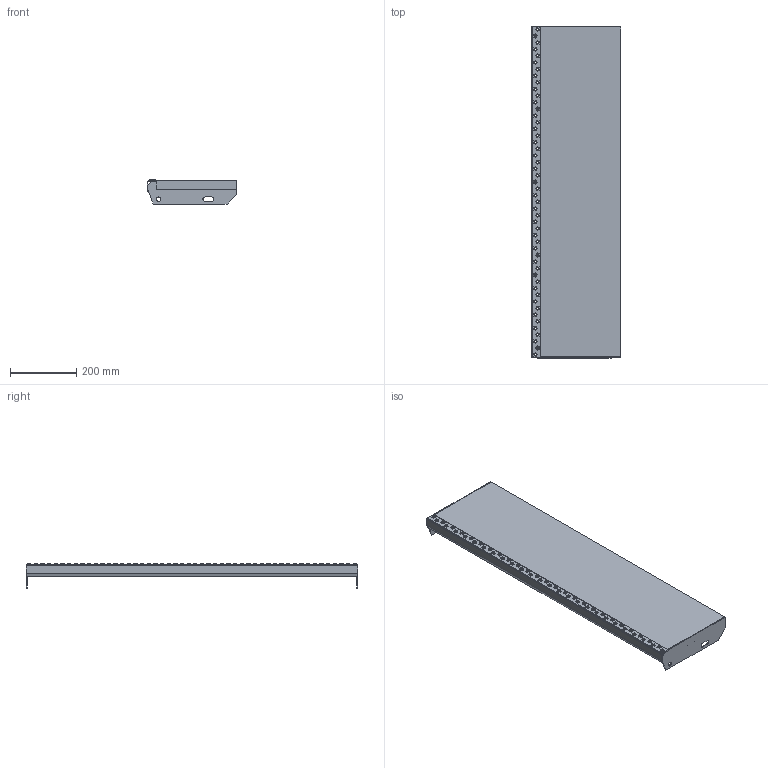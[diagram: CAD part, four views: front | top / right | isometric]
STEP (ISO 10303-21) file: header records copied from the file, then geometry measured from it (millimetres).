
FILE_DESCRIPTION(('Open CASCADE Model'),'2;1');
FILE_NAME('Open CASCADE Shape Model','2019-03-13T09:59:18',('Author'),( 'Open CASCADE'),'Open CASCADE STEP processor 7.2','Open CASCADE 7.2' ,'Unknown');
FILE_SCHEMA(('AUTOMOTIVE_DESIGN { 1 0 10303 214 1 1 1 1 }'));
Length unit declared in the file: millimetre
Products named in the file (1570): Open CASCADE STEP translator 7.2 1; Open CASCADE STEP translator 7.2 2; Open CASCADE STEP translator 7.2 3; Open CASCADE STEP translator 7.2 3.1; Open CASCADE STEP translator 7.2 3.2; Open CASCADE STEP translator 7.2 3.3; Open CASCADE STEP translator 7.2 3.4; Open CASCADE STEP translator 7.2 3.5; Open CASCADE STEP translator 7.2 3.6; Open CASCADE STEP translator 7.2 3.7; Open CASCADE STEP translator 7.2 3.8; Open CASCADE STEP translator 7.2 3.9; Open CASCADE STEP translator 7.2 3.10; Open CASCADE STEP translator 7.2 3.11; Open CASCADE STEP translator 7.2 3.12; Open CASCADE STEP translator 7.2 3.13; Open CASCADE STEP translator 7.2 3.14; Open CASCADE STEP translator 7.2 3.15; Open CASCADE STEP translator 7.2 3.16; Open CASCADE STEP translator 7.2 3.17; Open CASCADE STEP translator 7.2 3.18; Open CASCADE STEP translator 7.2 3.19; Open CASCADE STEP translator 7.2 3.20; Open CASCADE STEP translator 7.2 3.21; Open CASCADE STEP translator 7.2 3.22; Open CASCADE STEP translator 7.2 3.23; Open CASCADE STEP translator 7.2 3.24; Open CASCADE STEP translator 7.2 3.25; Open CASCADE STEP translator 7.2 3.26; Open CASCADE STEP translator 7.2 3.27; Open CASCADE STEP translator 7.2 3.28; Open CASCADE STEP translator 7.2 3.29; Open CASCADE STEP translator 7.2 3.30; Open CASCADE STEP translator 7.2 3.31; Open CASCADE STEP translator 7.2 3.32; Open CASCADE STEP translator 7.2 3.33; Open CASCADE STEP translator 7.2 3.34; Open CASCADE STEP translator 7.2 3.35; Open CASCADE STEP translator 7.2 3.36; Open CASCADE STEP translator 7.2 3.37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
Assembly tree (1566 placements, depth 2):
  Open CASCADE STEP translator 7.2 1
  Open CASCADE STEP translator 7.2 2
  Open CASCADE STEP translator 7.2 3
    Open CASCADE STEP translator 7.2 3.1
    Open CASCADE STEP translator 7.2 3.2
    Open CASCADE STEP translator 7.2 3.3
    Open CASCADE STEP translator 7.2 3.4
    Open CASCADE STEP translator 7.2 3.5
    Open CASCADE STEP translator 7.2 3.6
    Open CASCADE STEP translator 7.2 3.7
    Open CASCADE STEP translator 7.2 3.8
    Open CASCADE STEP translator 7.2 3.9
    Open CASCADE STEP translator 7.2 3.10
    Open CASCADE STEP translator 7.2 3.11
    Open CASCADE STEP translator 7.2 3.12
    Open CASCADE STEP translator 7.2 3.13
    Open CASCADE STEP translator 7.2 3.14
    Open CASCADE STEP translator 7.2 3.15
    Open CASCADE STEP translator 7.2 3.16
    Open CASCADE STEP translator 7.2 3.17
    Open CASCADE STEP translator 7.2 3.18
    Open CASCADE STEP translator 7.2 3.19
    Open CASCADE STEP translator 7.2 3.20
    Open CASCADE STEP translator 7.2 3.21
    Open CASCADE STEP translator 7.2 3.22
    Open CASCADE STEP translator 7.2 3.23
    Open CASCADE STEP translator 7.2 3.24
    Open CASCADE STEP translator 7.2 3.25
    Open CASCADE STEP translator 7.2 3.26
    Open CASCADE STEP translator 7.2 3.27
    Open CASCADE STEP translator 7.2 3.28
    Open CASCADE STEP translator 7.2 3.29
    Open CASCADE STEP translator 7.2 3.30
    Open CASCADE STEP translator 7.2 3.31
    Open CASCADE STEP translator 7.2 3.32
    Open CASCADE STEP translator 7.2 3.33
    Open CASCADE STEP translator 7.2 3.34
    Open CASCADE STEP translator 7.2 3.35
    Open CASCADE STEP translator 7.2 3.36
    Open CASCADE STEP translator 7.2 3.37
    Open CASCADE STEP translator 7.2 3.38
    Open CASCADE STEP translator 7.2 3.39
    Open CASCADE STEP translator 7.2 3.40
    Open CASCADE STEP translator 7.2 3.41
    Open CASCADE STEP translator 7.2 3.42
    Open CASCADE STEP translator 7.2 3.43
    Open CASCADE STEP translator 7.2 3.44
    Open CASCADE STEP translator 7.2 3.45
    Open CASCADE STEP translator 7.2 3.46
    Open CASCADE STEP translator 7.2 3.47
    Open CASCADE STEP translator 7.2 3.48
    Open CASCADE STEP translator 7.2 3.49
    Open CASCADE STEP translator 7.2 3.50
    Open CASCADE STEP translator 7.2 3.51
    Open CASCADE STEP translator 7.2 3.52
    Open CASCADE STEP translator 7.2 3.53
    Open CASCADE STEP translator 7.2 3.54
    Open CASCADE STEP translator 7.2 3.55
    Open CASCADE STEP translator 7.2 3.56
    Open CASCADE STEP translator 7.2 3.57
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Bounding box: 271 x 1000 x 73 mm (x, y, z)
Volume: 6105351.2 mm3; surface area: 746578.4 mm2
Topology: 3 solids, 1569 shells, 1604 faces, 8580 edges, 8548 vertices
Faces by surface type: plane 1598, cylinder 6
Full cylindrical faces by diameter (mm): 13 x2
Entity records: 174052 total; most frequent: CARTESIAN_POINT 29071, DIRECTION 23574, LINE 17208, VECTOR 17208, ORIENTED_EDGE 8676, PCURVE 8676, DEFINITIONAL_REPRESENTATION 8676, EDGE_CURVE 8580
